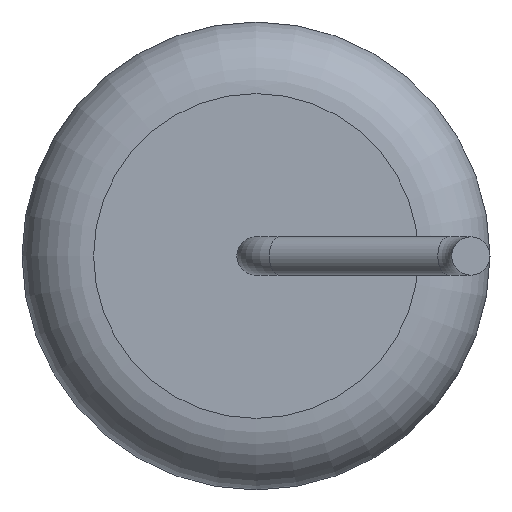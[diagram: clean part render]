
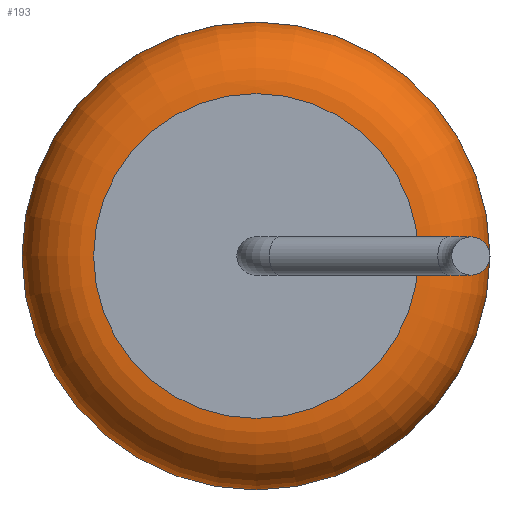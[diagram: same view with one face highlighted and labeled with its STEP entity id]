
A CAD part, left-side view. The second image highlights one B-rep face of the part: STEP entity #193.
In plain terms, the highlighted toroidal (fillet/blend) face has major radius 3.4 mm and minor radius 1.5 mm.
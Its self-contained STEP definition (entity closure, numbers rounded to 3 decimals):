
#193=ADVANCED_FACE('',(#398,#400),#402,.T.);
#398=FACE_OUTER_BOUND('',#399,.T.);
#399=EDGE_LOOP('',(#497));
#400=FACE_OUTER_BOUND('',#401,.T.);
#401=EDGE_LOOP('',(#498));
#402=TOROIDAL_SURFACE('',#403,3.4,1.5);
#403=AXIS2_PLACEMENT_3D('',#404,#405,#406);
#404=CARTESIAN_POINT('',(-8.5,0.,0.));
#405=DIRECTION('',(-1.,0.,0.));
#406=DIRECTION('',(0.,0.,1.));
#497=ORIENTED_EDGE('',*,*,#526,.T.);
#498=ORIENTED_EDGE('',*,*,#527,.F.);
#526=EDGE_CURVE('',#562,#562,#563,.T.);
#527=EDGE_CURVE('',#564,#564,#565,.T.);
#562=VERTEX_POINT('',#648);
#563=CIRCLE('',#649,4.9);
#564=VERTEX_POINT('',#653);
#565=CIRCLE('',#654,3.4);
#648=CARTESIAN_POINT('',(-8.5,0.,4.9));
#649=AXIS2_PLACEMENT_3D('',#650,#651,#652);
#650=CARTESIAN_POINT('',(-8.5,0.,0.));
#651=DIRECTION('',(-1.,0.,0.));
#652=DIRECTION('',(0.,0.,1.));
#653=CARTESIAN_POINT('',(-10.,0.,3.4));
#654=AXIS2_PLACEMENT_3D('',#655,#656,#657);
#655=CARTESIAN_POINT('',(-10.,0.,0.));
#656=DIRECTION('',(-1.,0.,0.));
#657=DIRECTION('',(0.,0.,1.));
